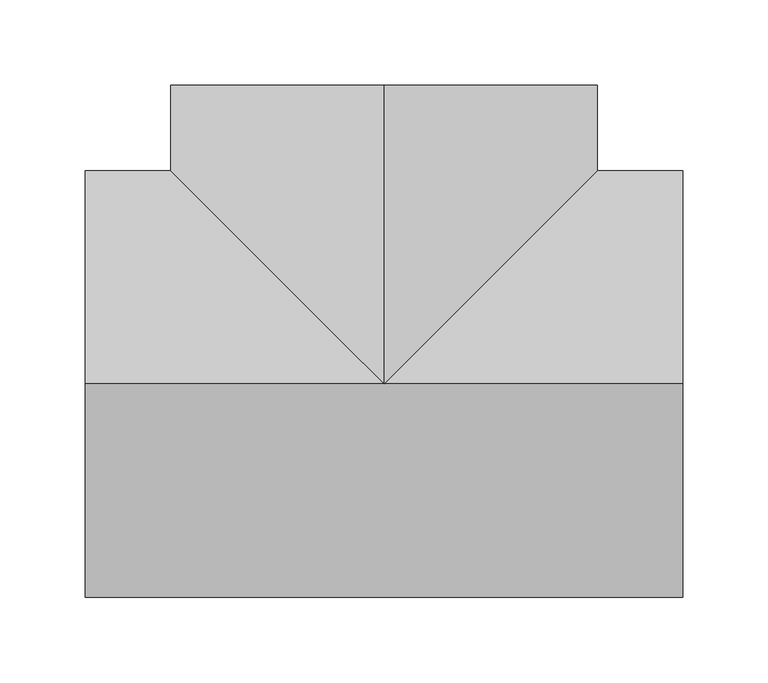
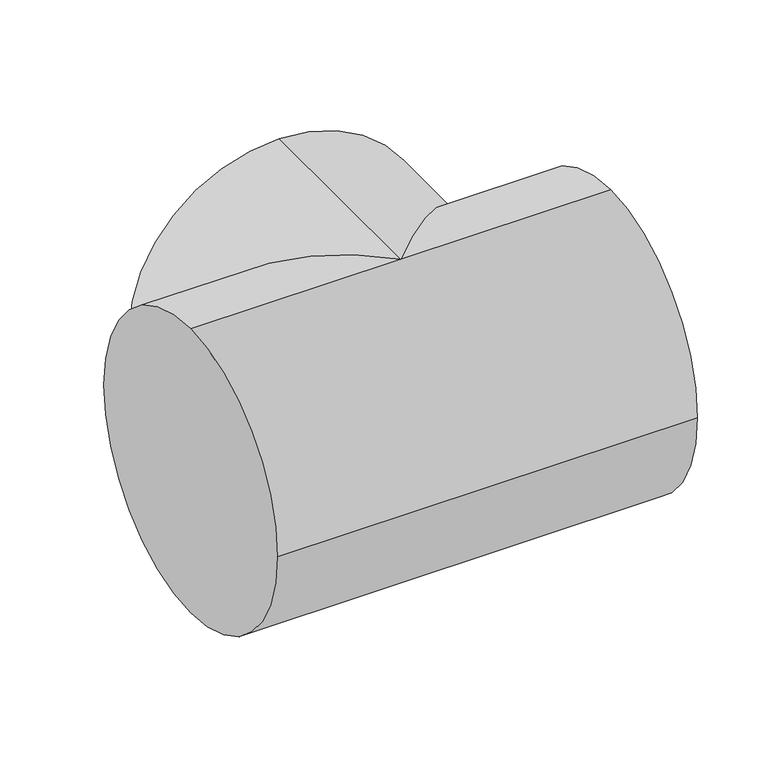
"""IFC4 building model written with IfcOpenShell, lengths in millimetres: duct fitting geometry, ADSK_ТройникВоздуховодов_Круглый : Стандарт."""

from ifc_helpers import new_model, si_unit, frame, origin, place, context, project, spatial, circle_curve, ellipse_curve, source, transform, mapped, element, save
from ifc_brep_helpers import plane_surface, cylinder_surface, advanced_brep


def duct_fitting_25d344ac(model_context):
    return source(origin(), model_context, "Body", "AdvancedBrep", [
        advanced_brep(
        [(0.0, 175.0, 125.0), (125.0, 175.0, 0.0), (0.0, 175.0, -125.0), (-125.0, 175.0, 0.0), (0.0, 0.0, 125.0), (125.0, 125.0, 0.0), (0.0, 0.0, -125.0), (-125.0, 125.0, 0.0), (-175.0, 0.0, 125.0), (-175.0, 125.0, 0.0), (-175.0, 0.0, -125.0), (-175.0, -125.0, 0.0), (175.0, 0.0, 125.0), (175.0, -125.0, 0.0), (175.0, 0.0, -125.0), (175.0, 125.0, 0.0)],
        [
            (0, 1, circle_curve(frame((0.0, 175.0, 0.0), z_axis=(0.0, 1.0, 0.0), x_axis=(1.0, 0.0, 0.0)), 125.0)),
            (1, 2, circle_curve(frame((0.0, 175.0, 0.0), z_axis=(0.0, 1.0, 0.0), x_axis=(1.0, 0.0, 0.0)), 125.0)),
            (2, 3, circle_curve(frame((0.0, 175.0, 0.0), z_axis=(0.0, 1.0, 0.0), x_axis=(1.0, 0.0, 0.0)), 125.0)),
            (3, 0, circle_curve(frame((0.0, 175.0, 0.0), z_axis=(0.0, 1.0, 0.0), x_axis=(1.0, 0.0, 0.0)), 125.0)),
            (0, 4),
            (4, 5, ellipse_curve(frame((0.0, 0.0, 0.0), z_axis=(-0.7071067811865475, 0.7071067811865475, 0.0), x_axis=(-0.7071067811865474, -0.7071067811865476, 0.0)), 176.7766953, 125.0)),
            (5, 1),
            (5, 6, ellipse_curve(frame((0.0, 0.0, 0.0), z_axis=(-0.7071067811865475, 0.7071067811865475, 0.0), x_axis=(-0.7071067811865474, -0.7071067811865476, 0.0)), 176.7766953, 125.0)),
            (6, 2),
            (6, 7, ellipse_curve(frame((0.0, 0.0, 0.0), z_axis=(0.7071067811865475, 0.7071067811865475, 0.0), x_axis=(0.7071067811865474, -0.7071067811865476, 0.0)), 176.7766953, 125.0)),
            (7, 3),
            (7, 4, ellipse_curve(frame((0.0, 0.0, 0.0), z_axis=(0.7071067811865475, 0.7071067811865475, 0.0), x_axis=(0.7071067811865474, -0.7071067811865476, 0.0)), 176.7766953, 125.0)),
            (8, 9, circle_curve(frame((-175.0, 0.0, 0.0), z_axis=(-1.0, 0.0, 0.0), x_axis=(0.0, -1.0, 0.0)), 125.0)),
            (9, 10, circle_curve(frame((-175.0, 0.0, 0.0), z_axis=(-1.0, 0.0, 0.0), x_axis=(0.0, -1.0, 0.0)), 125.0)),
            (10, 11, circle_curve(frame((-175.0, 0.0, 0.0), z_axis=(-1.0, 0.0, 0.0), x_axis=(0.0, -1.0, 0.0)), 125.0)),
            (11, 8, circle_curve(frame((-175.0, 0.0, 0.0), z_axis=(-1.0, 0.0, 0.0), x_axis=(0.0, -1.0, 0.0)), 125.0)),
            (12, 13, circle_curve(frame((175.0, 0.0, 0.0), z_axis=(1.0, 0.0, 0.0), x_axis=(0.0, -1.0, 0.0)), 125.0)),
            (13, 14, circle_curve(frame((175.0, 0.0, 0.0), z_axis=(1.0, 0.0, 0.0), x_axis=(0.0, -1.0, 0.0)), 125.0)),
            (14, 15, circle_curve(frame((175.0, 0.0, 0.0), z_axis=(1.0, 0.0, 0.0), x_axis=(0.0, -1.0, 0.0)), 125.0)),
            (15, 12, circle_curve(frame((175.0, 0.0, 0.0), z_axis=(1.0, 0.0, 0.0), x_axis=(0.0, -1.0, 0.0)), 125.0)),
            (11, 13),
            (12, 4),
            (4, 8),
            (10, 6),
            (6, 14),
            (5, 15),
            (9, 7),
        ],
        [
            plane_surface(frame((0.0, 175.0, 0.0), z_axis=(0.0, 1.0, 0.0), x_axis=(0.0, 0.0, 1.0))),
            cylinder_surface(frame((0.0, 0.0, 0.0), z_axis=(0.0, -1.0, 0.0), x_axis=(1.0, 0.0, 0.0)), 125.0),
            plane_surface(frame((-175.0, 0.0, 0.0), z_axis=(-1.0, 0.0, 0.0), x_axis=(0.0, 0.0, 1.0))),
            plane_surface(frame((175.0, 0.0, 0.0), z_axis=(1.0, 0.0, 0.0), x_axis=(0.0, 0.0, 1.0))),
            cylinder_surface(frame((-175.0, 0.0, 0.0), z_axis=(-1.0, 0.0, 0.0), x_axis=(0.0, -1.0, 0.0)), 125.0),
        ],
        [
            (0, [[1, 2, 3, 4]]),
            (1, [[5, 6, 7, -1]]),
            (1, [[-7, 8, 9, -2]]),
            (1, [[-9, 10, 11, -3]]),
            (1, [[-11, 12, -5, -4]]),
            (2, [[13, 14, 15, 16]]),
            (3, [[17, 18, 19, 20]]),
            (4, [[21, -17, 22, 23, -16]]),
            (4, [[24, 25, -18, -21, -15]]),
            (4, [[-25, -8, 26, -19]]),
            (4, [[27, -10, -24, -14]]),
            (4, [[-23, -12, -27, -13]]),
            (4, [[-26, -6, -22, -20]]),
        ],
    ),
    ])


if __name__ == "__main__":
    model = new_model("IFC4")
    model_context = context("Model", 3, world=origin())
    ifc_project = project(units=[si_unit("LENGTHUNIT", "METRE", prefix="MILLI")], contexts=[model_context])
    site = spatial("IfcSite", under=ifc_project)
    building = spatial("IfcBuilding", under=site)
    placement = place(None, origin())
    duct_fitting_shape = duct_fitting_25d344ac(model_context)
    element("IfcDuctFitting", 1, ObjectType="ADSK_ТройникВоздуховодов_Круглый : Стандарт", at=placement, inside=building, context=model_context, shape_type="MappedRepresentation", body=[
        mapped(duct_fitting_shape, transform((0.0, 0.0, 0.0), x_axis=(1.0, 0.0, 0.0), y_axis=(0.0, 1.0, 0.0), z_axis=(0.0, 0.0, 1.0))),
    ])
    save(model, "model.ifc")
